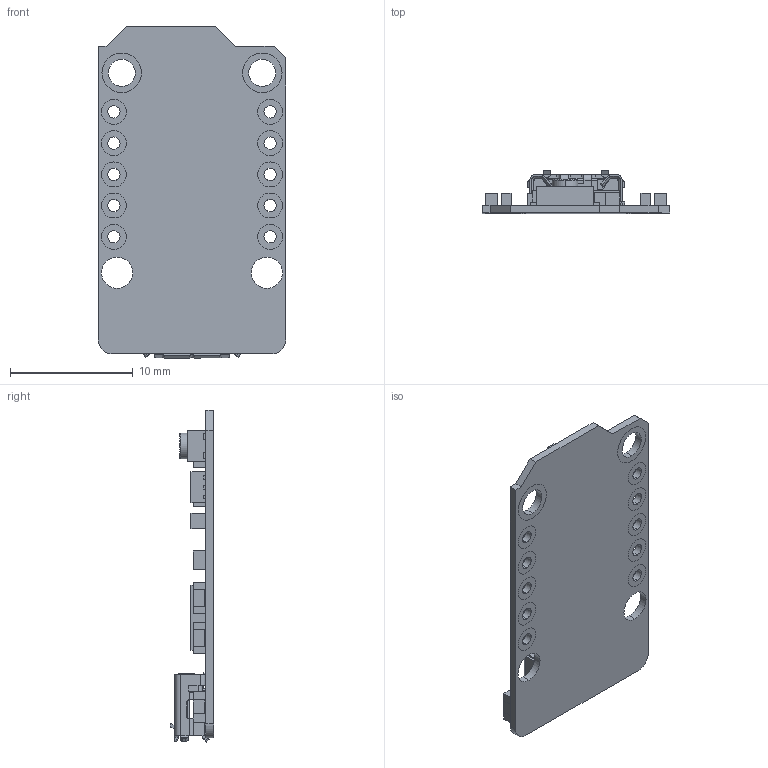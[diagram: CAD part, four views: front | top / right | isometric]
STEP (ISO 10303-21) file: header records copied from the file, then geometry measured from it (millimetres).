
FILE_DESCRIPTION (( 'STEP AP214' ), '1' );
FILE_NAME ('3500.STEP', '2021-05-19T03:51:58', ( '' ), ( '' ), 'SwSTEP 2.0', 'SolidWorks 2017', '' );
FILE_SCHEMA (( 'AUTOMOTIVE_DESIGN' ));
Length unit declared in the file: millimetre
Products named in the file (1): 3500
Bounding box: 15.24 x 3.5 x 27 mm (x, y, z)
Volume: 369.4 mm3; surface area: 1574.1 mm2
Topology: 62 solids, 62 shells, 1005 faces, 2526 edges, 1638 vertices
Faces by surface type: plane 697, cylinder 284, cone 14, torus 9, bspline 1
Entity records: 30604 total; most frequent: CARTESIAN_POINT 5325, DIRECTION 5087, ORIENTED_EDGE 5052, EDGE_CURVE 2526, VECTOR 1897, LINE 1897, VERTEX_POINT 1638, AXIS2_PLACEMENT_3D 1595
